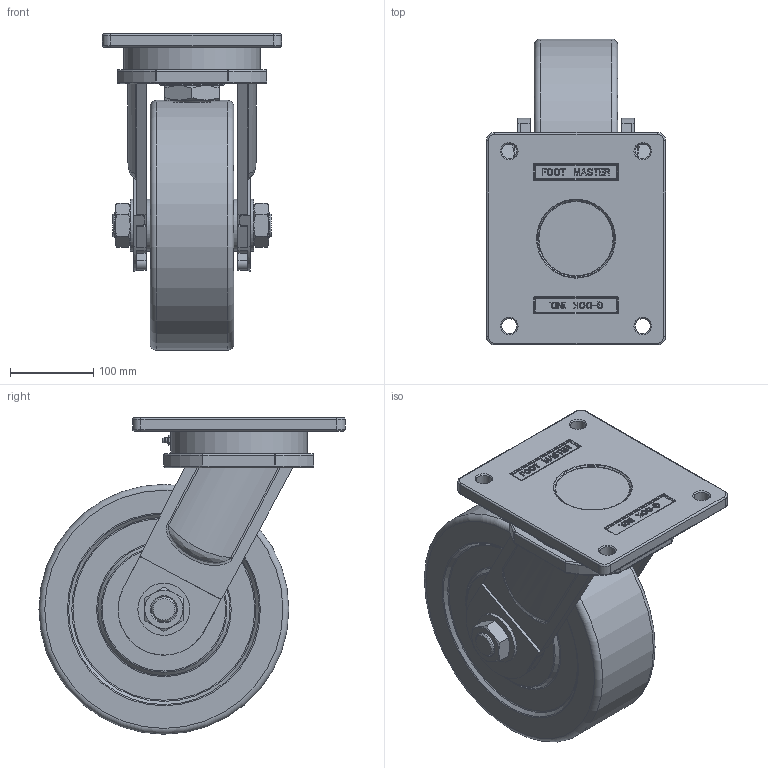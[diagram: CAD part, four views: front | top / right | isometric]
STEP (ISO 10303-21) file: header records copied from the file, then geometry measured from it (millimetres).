
FILE_DESCRIPTION((''),'2;1');
FILE_NAME('C:\Documents and Settings\Administrator\바탕 화면\3D STEP\UGXT-SERIES\UGXT-300\UGXT-300-SF.stp','2010-12-27T15:17:34',('Administrator'),(''),'Autodesk Inventor 2009','Autodesk Inventor 2009','');
FILE_SCHEMA(('AUTOMOTIVE_DESIGN { 1 0 10303 214 1 1 1 1 }'));
Length unit declared in the file: millimetre
Products named in the file (1): UGXT-300-SF
Bounding box: 215 x 367.5 x 380 mm (x, y, z)
Volume: 9355511.8 mm3; surface area: 734257.5 mm2
Topology: 16 solids, 16 shells, 816 faces, 1985 edges, 1249 vertices
Faces by surface type: plane 352, cylinder 157, bspline 154, cone 83, torus 54, sphere 16
Full cylindrical faces by diameter (mm): 1 x4, 6 x1, 18 x4, 30 x4, 30.5 x2, 38 x2, 38.5 x2, 48 x2, 48.5 x1, 49.8 x1, 50 x7, 60 x2, 62.5 x4, 63.334 x6, 66 x1, 76.666 x6, 78 x2, 80 x2, 90 x6, 109.6 x1, 110 x1, 111.2 x1, 112 x1, 145 x2, 148 x1, 152 x1, 156 x1, 164 x1, 170 x1, 300.001 x1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
Entity records: 24553 total; most frequent: CARTESIAN_POINT 7442, ORIENTED_EDGE 3384, DIRECTION 3223, EDGE_CURVE 1692, VERTEX_POINT 1172, AXIS2_PLACEMENT_3D 1164, EDGE_LOOP 1116, VECTOR 895
